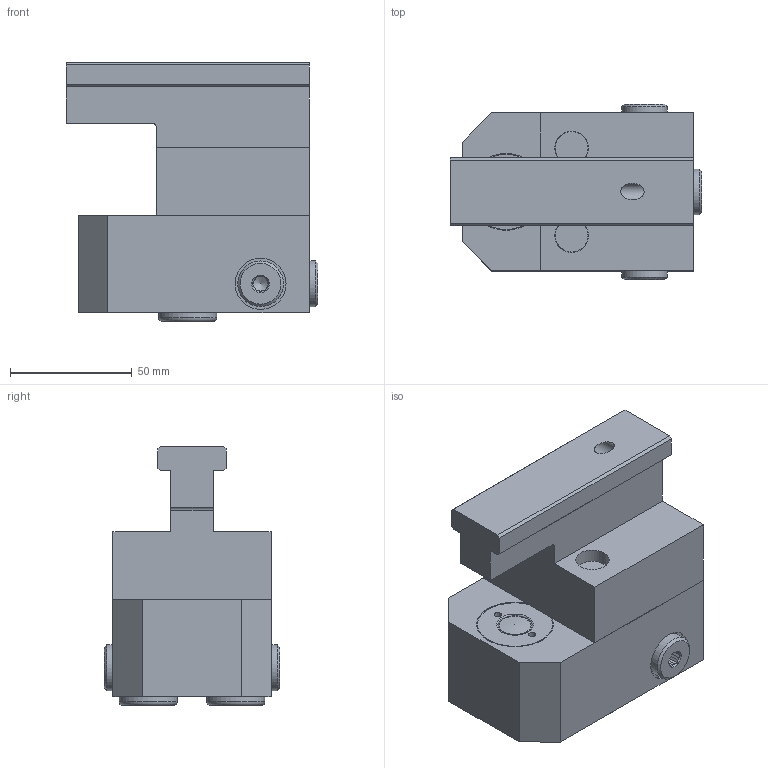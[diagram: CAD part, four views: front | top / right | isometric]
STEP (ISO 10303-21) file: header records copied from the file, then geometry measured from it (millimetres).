
FILE_DESCRIPTION(/* description */ (''),/* implementation_level */ '2;1');
FILE_NAME(/* name */ 'S:\EASCN Vault\Designs\Standard Part\T-SLOT\MTC CLAMPS\MTC15\MTC15-18-XX.stp',/* time_stamp */ '2020-05-19T10:06:03+08:00',/* author */ ('yue.yang'),/* organization */ (''),/* preprocessor_version */ 'ST-DEVELOPER v17',/* originating_system */ 'Autodesk Inventor 2019',/* authorisation */ '');
FILE_SCHEMA (('AUTOMOTIVE_DESIGN { 1 0 10303 214 3 1 1 }'));
Length unit declared in the file: millimetre
Products named in the file (1): MTC15-18-XX_Shrinkwrap_1
Bounding box: 103.6 x 72.2 x 106.5 mm (x, y, z)
Volume: 407302.1 mm3; surface area: 87191.2 mm2
Topology: 11 solids, 11 shells, 454 faces, 1229 edges, 841 vertices
Faces by surface type: plane 240, bspline 108, cylinder 61, cone 32, torus 13
Full cylindrical faces by diameter (mm): 3 x2, 4 x1, 6 x3, 6.8 x1, 11.2 x3, 11.445 x4, 11.6 x3, 12 x1, 13.157 x3, 13.835 x2, 13.95 x1, 14.1 x1, 16 x2, 16.4 x3, 16.8 x3, 17 x4, 18.8 x3, 19.5 x1, 21 x3, 23.5 x1, 23.97 x2, 24 x2, 24.02 x1, 24.5 x1, 26 x2, 30 x1, 32 x1, 33 x1
Entity records: 15601 total; most frequent: CARTESIAN_POINT 4115, ORIENTED_EDGE 2444, DIRECTION 1978, EDGE_CURVE 1222, VERTEX_POINT 841, AXIS2_PLACEMENT_3D 678, LINE 622, VECTOR 622
